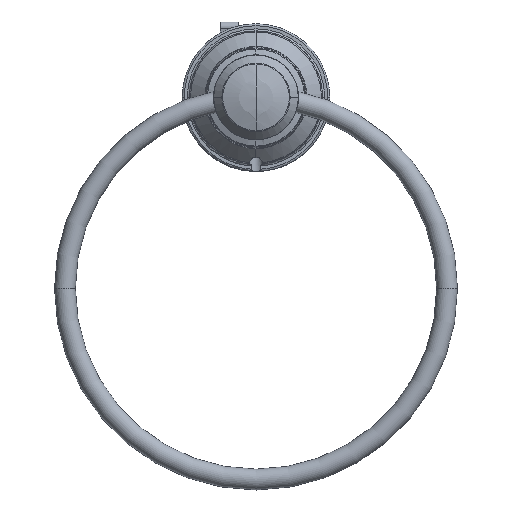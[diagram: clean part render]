
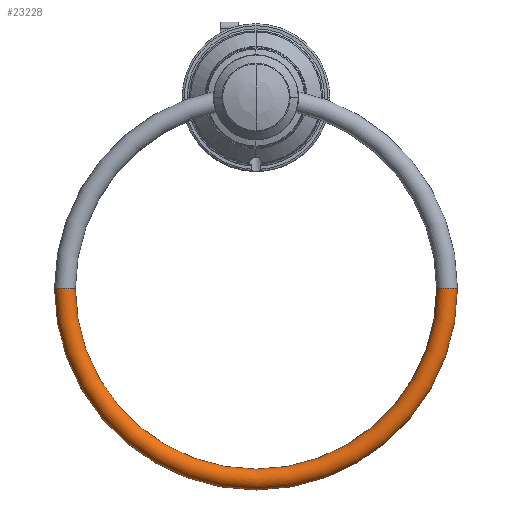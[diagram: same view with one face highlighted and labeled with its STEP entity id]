
A CAD part, top view. The second image highlights one B-rep face of the part: STEP entity #23228.
In plain terms, the highlighted toroidal (fillet/blend) face has major radius 72.257 mm and minor radius 3.943 mm.
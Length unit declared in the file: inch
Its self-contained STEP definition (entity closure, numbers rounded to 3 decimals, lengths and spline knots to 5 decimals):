
#2297 = CARTESIAN_POINT ( 'NONE',  ( 2.84475, -2.84475, 0. ) ) ;
#3384 = AXIS2_PLACEMENT_3D ( 'NONE', #38055, #21370, #8165 ) ;
#4856 = CARTESIAN_POINT ( 'NONE',  ( -2.6895, -2.84475, 0. ) ) ;
#4907 = VERTEX_POINT ( 'NONE', #22729 ) ;
#7913 = EDGE_CURVE ( 'NONE', #34118, #4907, #16032, .T. ) ;
#8165 = DIRECTION ( 'NONE',  ( 0.02, 1., 0. ) ) ;
#8671 = DIRECTION ( 'NONE',  ( 0., -1., 0. ) ) ;
#9071 = EDGE_LOOP ( 'NONE', ( #28501, #18413, #27438, #13507 ) ) ;
#11496 = CIRCLE ( 'NONE', #26962, 0.15525 ) ;
#11590 = VERTEX_POINT ( 'NONE', #4856 ) ;
#13104 = VERTEX_POINT ( 'NONE', #23779 ) ;
#13311 = CIRCLE ( 'NONE', #43478, 2.6895 ) ;
#13507 = ORIENTED_EDGE ( 'NONE', *, *, #32245, .F. ) ;
#14012 = AXIS2_PLACEMENT_3D ( 'NONE', #24536, #41631, #37699 ) ;
#15540 = CARTESIAN_POINT ( 'NONE',  ( -2.84475, -2.84475, 0. ) ) ;
#16032 = CIRCLE ( 'NONE', #3384, 3. ) ;
#17551 = CIRCLE ( 'NONE', #36481, 0.15525 ) ;
#18413 = ORIENTED_EDGE ( 'NONE', *, *, #7913, .F. ) ;
#18845 = DIRECTION ( 'NONE',  ( 0., 1., 0. ) ) ;
#21370 = DIRECTION ( 'NONE',  ( 0., 0., -1. ) ) ;
#21939 = CARTESIAN_POINT ( 'NONE',  ( 0., -2.84475, 0. ) ) ;
#22729 = CARTESIAN_POINT ( 'NONE',  ( -3., -2.84475, 0. ) ) ;
#22922 = EDGE_CURVE ( 'NONE', #4907, #11590, #11496, .T. ) ;
#23228 = ADVANCED_FACE ( 'NONE', ( #24324 ), #42759, .T. ) ;
#23779 = CARTESIAN_POINT ( 'NONE',  ( 2.6895, -2.84475, 0. ) ) ;
#24324 = FACE_OUTER_BOUND ( 'NONE', #9071, .T. ) ;
#24536 = CARTESIAN_POINT ( 'NONE',  ( 0., -2.84475, 0. ) ) ;
#25449 = DIRECTION ( 'NONE',  ( -0.022, 1., 0. ) ) ;
#26210 = CARTESIAN_POINT ( 'NONE',  ( 3., -2.84475, 0. ) ) ;
#26962 = AXIS2_PLACEMENT_3D ( 'NONE', #15540, #18845, #29383 ) ;
#27438 = ORIENTED_EDGE ( 'NONE', *, *, #32584, .T. ) ;
#28501 = ORIENTED_EDGE ( 'NONE', *, *, #22922, .F. ) ;
#29383 = DIRECTION ( 'NONE',  ( -1., 0., 0. ) ) ;
#32245 = EDGE_CURVE ( 'NONE', #11590, #13104, #13311, .T. ) ;
#32584 = EDGE_CURVE ( 'NONE', #34118, #13104, #17551, .T. ) ;
#34118 = VERTEX_POINT ( 'NONE', #26210 ) ;
#36481 = AXIS2_PLACEMENT_3D ( 'NONE', #2297, #8671, #42505 ) ;
#37699 = DIRECTION ( 'NONE',  ( 1., 0., 0. ) ) ;
#38055 = CARTESIAN_POINT ( 'NONE',  ( 0., -2.84475, 0. ) ) ;
#41631 = DIRECTION ( 'NONE',  ( 0., 0., 1. ) ) ;
#42137 = DIRECTION ( 'NONE',  ( 0., 0., 1. ) ) ;
#42505 = DIRECTION ( 'NONE',  ( 0., 0., -1. ) ) ;
#42759 = TOROIDAL_SURFACE ( 'NONE', #14012, 2.84475, 0.15525 ) ;
#43478 = AXIS2_PLACEMENT_3D ( 'NONE', #21939, #42137, #25449 ) ;
